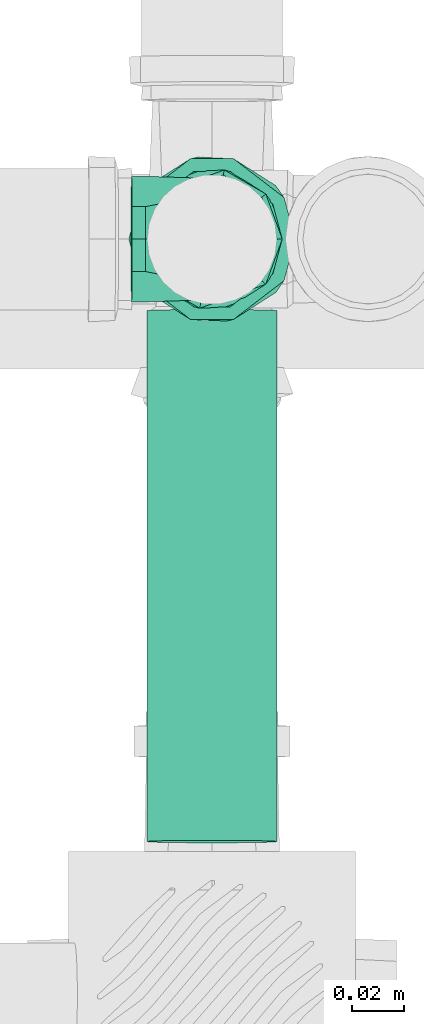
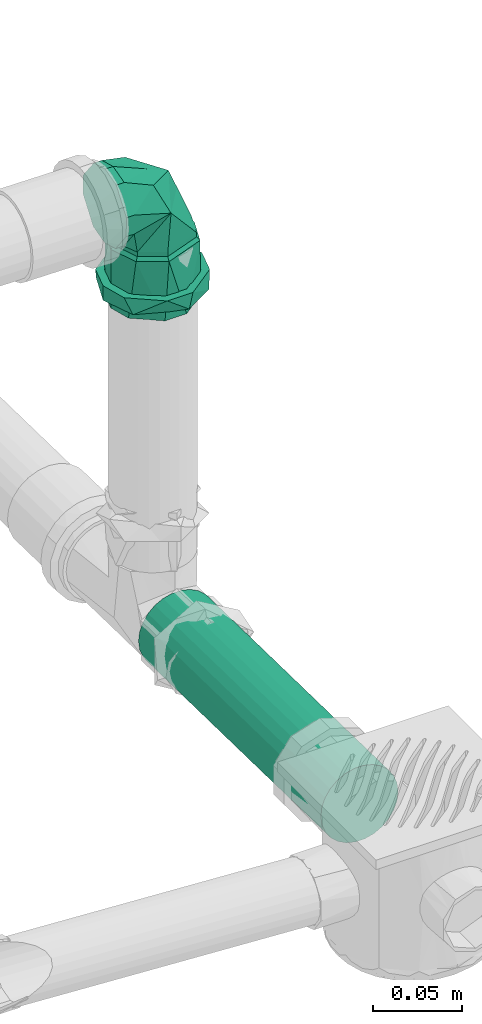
# One storey, part 117 of 589: 1 flow fitting, 1 flow segment.
"""IFC2X3 building model written with IfcOpenShell, lengths in millimetres."""

import ifcopenshell
import ifcopenshell.guid

model = None  # the IFC model being written
_history = None  # IfcOwnerHistory: only IFC2X3 demands one
_inside = {}  # id of a spatial element -> (the spatial element, [elements in it])
_under = {}  # id of a project, library or spatial element -> (it, [spatial elements below it])
_declared = {}  # id of a project -> (the project, [libraries it declares])
_typed = {}  # id of a type object -> (the type object, [elements of that type])
_made_of = {}  # id of a material, layer set ... -> (it, [elements and type objects made of it])


def new_model(schema):
    """Start an empty IFC model of exactly this schema.

    Asked for "IFC4X3", IfcOpenShell would pick the latest addendum, in which some entities
    have other attributes; the version numbers below select the first issue.
    IFC2X3 requires an IfcOwnerHistory on every rooted entity: one is made here for all.
    """
    global model, _history
    if schema == "IFC4X3":
        model = ifcopenshell.file(schema_version=(4, 3, 0, 0))
    else:
        model = ifcopenshell.file(schema=schema)
    _inside.clear()
    _under.clear()
    _declared.clear()
    _typed.clear()
    _made_of.clear()
    _history = None
    if model.schema == "IFC2X3":
        org = make("IfcOrganization", Name="unknown")
        user = make(
            "IfcPersonAndOrganization",
            ThePerson=make("IfcPerson", FamilyName="unknown"),
            TheOrganization=org,
        )
        app = make(
            "IfcApplication",
            ApplicationDeveloper=org,
            Version="unknown",
            ApplicationFullName="unknown",
            ApplicationIdentifier="unknown",
        )
        _history = make(
            "IfcOwnerHistory",
            OwningUser=user,
            OwningApplication=app,
            ChangeAction="ADDED",
            CreationDate=0,
        )
    return model


def make(cls, **values):
    """One entity of the class cls with the attributes given. An attribute that is None is left unset."""
    return model.create_entity(
        cls, **{name: value for name, value in values.items() if value is not None}
    )


def entity(cls, *values):
    """Any entity or typed value of the class cls, its attributes in the order of the schema. None: left unset."""
    e = model.create_entity(cls)
    for i, value in enumerate(values):
        if value is not None:
            e[i] = value
    return e


def rooted(cls, **values):
    """An entity with a GlobalId (a new one), such as an element, a storey or a relation."""
    return make(cls, GlobalId=ifcopenshell.guid.new(), OwnerHistory=_history, **values)


def si_unit(unit_type, name, prefix=None):
    """IfcSIUnit, for example si_unit("LENGTHUNIT", "METRE", prefix="MILLI")."""
    return make("IfcSIUnit", UnitType=unit_type, Prefix=prefix, Name=name)


def converted_unit(unit_type, name, factor, base, dimensions=None, offset=None):
    """IfcConversionBasedUnit, such as the inch: factor (a typed value) times the base unit."""
    return make(
        "IfcConversionBasedUnit"
        if offset is None
        else "IfcConversionBasedUnitWithOffset",
        ConversionOffset=offset,
        Dimensions=None
        if dimensions is None
        else entity("IfcDimensionalExponents", *dimensions),
        UnitType=unit_type,
        Name=name,
        ConversionFactor=make(
            "IfcMeasureWithUnit", ValueComponent=factor, UnitComponent=base
        ),
    )


def derived_unit(unit_type, elements):
    """IfcDerivedUnit: a product of units, each with its exponent."""
    return make(
        "IfcDerivedUnit",
        Elements=[
            make("IfcDerivedUnitElement", Unit=unit, Exponent=power)
            for unit, power in elements
        ],
        UnitType=unit_type,
    )


def assignment(units):
    """IfcUnitAssignment: the units of a project."""
    return None if units is None else make("IfcUnitAssignment", Units=units)


def point(xyz):
    """IfcCartesianPoint."""
    return None if xyz is None else make("IfcCartesianPoint", Coordinates=xyz)


def direction(xyz):
    """IfcDirection."""
    return None if xyz is None else make("IfcDirection", DirectionRatios=xyz)


def frame(location, z_axis=None, x_axis=None):
    """IfcAxis2Placement3D, a coordinate frame: its origin and axes. An axis left out is left unset."""
    return make(
        "IfcAxis2Placement3D",
        Location=point(location),
        Axis=direction(z_axis),
        RefDirection=direction(x_axis),
    )


def frame_2d(location, x_axis=None):
    """IfcAxis2Placement2D, a coordinate frame in the plane: its origin and x axis."""
    return make(
        "IfcAxis2Placement2D", Location=point(location), RefDirection=direction(x_axis)
    )


def origin():
    """The frame at (0, 0, 0) with its axes left unset."""
    return frame((0.0, 0.0, 0.0))


def place(relative_to, where):
    """IfcLocalPlacement: puts the frame where relative to a parent placement (None: the world)."""
    return make(
        "IfcLocalPlacement", PlacementRelTo=relative_to, RelativePlacement=where
    )


def context(
    kind, dimensions, precision=None, world=None, true_north=None, identifier=None
):
    """IfcGeometricRepresentationContext, for example the 3D "Model" context."""
    return make(
        "IfcGeometricRepresentationContext",
        ContextIdentifier=identifier,
        ContextType=kind,
        CoordinateSpaceDimension=dimensions,
        Precision=precision,
        WorldCoordinateSystem=world,
        TrueNorth=true_north,
    )


def subcontext(parent, identifier, kind, view, scale=None):
    """IfcGeometricRepresentationSubContext, for example "Body" below "Model"."""
    return make(
        "IfcGeometricRepresentationSubContext",
        ContextIdentifier=identifier,
        ContextType=kind,
        ParentContext=parent,
        TargetScale=scale,
        TargetView=view,
    )


def project(units=None, contexts=None):
    """IfcProject with its units and contexts."""
    return rooted(
        "IfcProject",
        Name="project",
        RepresentationContexts=contexts,
        UnitsInContext=assignment(units),
    )


def spatial(cls, under=None, at=None, **own):
    """A site, building, storey or space (cls), placed at a placement, below another one or the project."""
    s = rooted(cls, ObjectPlacement=at, **own)
    if under is not None:
        _under.setdefault(under.id(), (under, []))[1].append(s)
    return s


def profile(cls, at=None, kind="AREA", **sizes):
    """A parametric profile (cls). Its sizes go by their IFC names, for example OverallWidth=200.0."""
    return make(cls, ProfileType=kind, Position=at, **sizes)


def circle(**sizes):
    """IfcCircleProfileDef."""
    return profile("IfcCircleProfileDef", **sizes)


def extrude(swept, where, along, depth):
    """IfcExtrudedAreaSolid: the profile swept, set in the frame where, extruded along a direction by depth."""
    return make(
        "IfcExtrudedAreaSolid",
        SweptArea=swept,
        Position=where,
        ExtrudedDirection=direction(along),
        Depth=depth,
    )


def faces_of(points, faces, orient=None, outer=None):
    """IfcFace entities. A face is a list of loops; a loop is a list of indices into points, from 0.

    orient and outer hold one flag for each loop. By default every Orientation is true, the
    first loop of a face is its IfcFaceOuterBound and the others are IfcFaceBound.
    """
    made = []
    for i, loops in enumerate(faces):
        bounds = []
        for j, loop in enumerate(loops):
            is_outer = j == 0 if outer is None else outer[i][j]
            bounds.append(
                make(
                    "IfcFaceOuterBound" if is_outer else "IfcFaceBound",
                    Bound=make("IfcPolyLoop", Polygon=[points[k] for k in loop]),
                    Orientation=True if orient is None else orient[i][j],
                )
            )
        made.append(make("IfcFace", Bounds=bounds))
    return made


def faceted_brep(points, faces, orient=None, outer=None, voids=None):
    """IfcFacetedBrep: a solid bounded by flat faces; with voids (closed shells), ...WithVoids."""
    shared = [point(p) for p in points]
    hull = make("IfcClosedShell", CfsFaces=faces_of(shared, faces, orient, outer))
    if voids is None:
        return make("IfcFacetedBrep", Outer=hull)
    return make(
        "IfcFacetedBrepWithVoids",
        Outer=hull,
        Voids=[
            make(cls, CfsFaces=faces_of(shared, fs, o, b)) for cls, fs, o, b in voids
        ],
    )


def shape(context_of_items, identifier, shape_type, items):
    """IfcShapeRepresentation: the items that make up one representation, for example the "Body"."""
    return make(
        "IfcShapeRepresentation",
        ContextOfItems=context_of_items,
        RepresentationIdentifier=identifier,
        RepresentationType=shape_type,
        Items=items,
    )


def source(mapping_origin, context_of_items, identifier, shape_type, items):
    """IfcRepresentationMap: a shape defined once, which mapped items show again and again."""
    return make(
        "IfcRepresentationMap",
        MappingOrigin=mapping_origin,
        MappedRepresentation=shape(context_of_items, identifier, shape_type, items),
    )


def transform(
    local_origin,
    x_axis=None,
    y_axis=None,
    z_axis=None,
    scale=None,
    scale2=None,
    scale3=None,
    uniform=True,
):
    """IfcCartesianTransformationOperator3D, or its non-uniform kind. x_axis, y_axis, z_axis: its Axis1, 2, 3."""
    if uniform:
        return make(
            "IfcCartesianTransformationOperator3D",
            Axis1=direction(x_axis),
            Axis2=direction(y_axis),
            LocalOrigin=point(local_origin),
            Scale=scale,
            Axis3=direction(z_axis),
        )
    return make(
        "IfcCartesianTransformationOperator3DnonUniform",
        Axis1=direction(x_axis),
        Axis2=direction(y_axis),
        LocalOrigin=point(local_origin),
        Scale=scale,
        Axis3=direction(z_axis),
        Scale2=scale2,
        Scale3=scale3,
    )


def mapped(mapping_source, mapping_target):
    """IfcMappedItem: shows the shape of a source again, moved by a transform."""
    return make(
        "IfcMappedItem", MappingSource=mapping_source, MappingTarget=mapping_target
    )


def material(Name=None, Category=None):
    """IfcMaterial."""
    return make("IfcMaterial", Name=Name, Category=Category)


def made_of(thing, what):
    """Note that an element or type object is made of a material, layer set ...; save() writes the relation."""
    if what is not None:
        _made_of.setdefault(what.id(), (what, []))[1].append(thing)
    return thing


def type_object(cls, material=None, **own):
    """A type object (cls), such as IfcWallType, which elements share."""
    return made_of(rooted(cls, **own), material)


def type_shapes(of_type, sources):
    """Give a type object the sources (RepresentationMaps) that its elements show as mapped items."""
    of_type.RepresentationMaps = sources


def element(
    cls,
    number,
    at=None,
    inside=None,
    cuts=None,
    type_object=None,
    material=None,
    context=None,
    identifier="Body",
    shape_type=None,
    held_by="IfcProductDefinitionShape",
    body=None,
    shapes=None,
    **own,
):
    """One element of the class cls, such as IfcWall. Its Tag is "e" and its number.

    at: its placement. inside: the storey or other place that contains it. cuts: it is an
    opening in that element (IfcRelVoidsElement). A single representation is given by context,
    identifier, shape_type and body (its items); several are given by shapes. held_by: the class
    of the entity that holds the representations. save() writes the other relations.
    """
    e = rooted(cls, Tag="e%d" % number, ObjectPlacement=at, **own)
    if body is not None:
        shapes = [shape(context, identifier, shape_type, body)]
    if shapes is not None:
        e.Representation = make(held_by, Representations=shapes)
    if inside is not None:
        _inside.setdefault(inside.id(), (inside, []))[1].append(e)
    if cuts is not None:
        rooted(
            "IfcRelVoidsElement", RelatingBuildingElement=cuts, RelatedOpeningElement=e
        )
    if type_object is not None:
        _typed.setdefault(type_object.id(), (type_object, []))[1].append(e)
    return made_of(e, material)


def aggregate(whole, parts):
    """IfcRelAggregates: a whole, such as a stair, and the parts it consists of."""
    return rooted("IfcRelAggregates", RelatingObject=whole, RelatedObjects=parts)


def save(model, path):
    """Write the relations noted so far, then the file.

    IfcRelAggregates (storeys below a building ...), IfcRelContainedInSpatialStructure (elements
    in a storey), IfcRelDefinesByType, IfcRelAssociatesMaterial and IfcRelDeclares: one each for
    every whole, place, type object, material and project.
    """
    for whole, parts in _under.values():
        aggregate(whole, parts)
    for where, things in _inside.values():
        rooted(
            "IfcRelContainedInSpatialStructure",
            RelatedElements=things,
            RelatingStructure=where,
        )
    for kind, things in _typed.values():
        rooted("IfcRelDefinesByType", RelatedObjects=things, RelatingType=kind)
    for what, things in _made_of.values():
        rooted("IfcRelAssociatesMaterial", RelatedObjects=things, RelatingMaterial=what)
    for by, libraries in _declared.values():
        rooted("IfcRelDeclares", RelatingContext=by, RelatedDefinitions=libraries)
    model.write(path)


model = new_model("IFC2X3")

# Units and contexts
model_context = context("Model", 3, precision=0.01, world=origin(), true_north=direction((6.123031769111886e-17, 1.0)))
body_context = subcontext(model_context, "Body", "Model", "MODEL_VIEW")
ifc_project = project(units=[si_unit("LENGTHUNIT", "METRE", prefix="MILLI"), si_unit("AREAUNIT", "SQUARE_METRE"), si_unit("VOLUMEUNIT", "CUBIC_METRE"), converted_unit("PLANEANGLEUNIT", "DEGREE", entity("IfcRatioMeasure", 0.017453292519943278), si_unit("PLANEANGLEUNIT", "RADIAN"), dimensions=[0, 0, 0, 0, 0, 0, 0]), si_unit("MASSUNIT", "GRAM", prefix="KILO"), derived_unit("MASSDENSITYUNIT", [(si_unit("MASSUNIT", "GRAM", prefix="KILO"), 1), (si_unit("LENGTHUNIT", "METRE"), -3)]), derived_unit("IONCONCENTRATIONUNIT", [(si_unit("MASSUNIT", "GRAM", prefix="KILO"), 1), (si_unit("LENGTHUNIT", "METRE"), -3)]), derived_unit("MOMENTOFINERTIAUNIT", [(si_unit("LENGTHUNIT", "METRE"), 4)]), si_unit("TIMEUNIT", "SECOND"), si_unit("FREQUENCYUNIT", "HERTZ"), si_unit("THERMODYNAMICTEMPERATUREUNIT", "DEGREE_CELSIUS"), derived_unit("THERMALTRANSMITTANCEUNIT", [(si_unit("MASSUNIT", "GRAM", prefix="KILO"), 1), (si_unit("THERMODYNAMICTEMPERATUREUNIT", "KELVIN"), -1), (si_unit("TIMEUNIT", "SECOND"), -3)]), derived_unit("THERMALCONDUCTANCEUNIT", [(si_unit("MASSUNIT", "GRAM", prefix="KILO"), 1), (si_unit("THERMODYNAMICTEMPERATUREUNIT", "KELVIN"), -1), (si_unit("TIMEUNIT", "SECOND"), -3), (si_unit("LENGTHUNIT", "METRE"), 1)]), derived_unit("VOLUMETRICFLOWRATEUNIT", [(si_unit("LENGTHUNIT", "METRE"), 3), (si_unit("TIMEUNIT", "SECOND"), -1)]), derived_unit("MASSFLOWRATEUNIT", [(si_unit("MASSUNIT", "GRAM", prefix="KILO"), 1), (si_unit("TIMEUNIT", "SECOND"), -1)]), derived_unit("ROTATIONALFREQUENCYUNIT", [(si_unit("TIMEUNIT", "SECOND"), -1)]), si_unit("ELECTRICCURRENTUNIT", "AMPERE"), si_unit("ELECTRICVOLTAGEUNIT", "VOLT"), si_unit("POWERUNIT", "WATT"), si_unit("FORCEUNIT", "NEWTON", prefix="KILO"), si_unit("ILLUMINANCEUNIT", "LUX"), si_unit("LUMINOUSFLUXUNIT", "LUMEN"), si_unit("LUMINOUSINTENSITYUNIT", "CANDELA"), derived_unit("USERDEFINED", [(si_unit("MASSUNIT", "GRAM", prefix="KILO"), -1), (si_unit("LENGTHUNIT", "METRE"), -2), (si_unit("TIMEUNIT", "SECOND"), 3), (si_unit("LUMINOUSFLUXUNIT", "LUMEN"), 1)]), derived_unit("USERDEFINED", [(si_unit("MASSUNIT", "GRAM", prefix="KILO"), 1), (si_unit("TIMEUNIT", "SECOND"), -3), (si_unit("LENGTHUNIT", "METRE"), 3), (si_unit("ELECTRICCURRENTUNIT", "AMPERE"), -2)]), derived_unit("SOUNDPOWERUNIT", [(si_unit("MASSUNIT", "GRAM", prefix="KILO"), 1), (si_unit("TIMEUNIT", "SECOND"), -3), (si_unit("LENGTHUNIT", "METRE"), 2)]), derived_unit("SOUNDPRESSUREUNIT", [(si_unit("MASSUNIT", "GRAM", prefix="KILO"), 1), (si_unit("LENGTHUNIT", "METRE"), -1), (si_unit("TIMEUNIT", "SECOND"), -2)]), derived_unit("LINEARVELOCITYUNIT", [(si_unit("LENGTHUNIT", "METRE"), 1), (si_unit("TIMEUNIT", "SECOND"), -1)]), si_unit("PRESSUREUNIT", "PASCAL"), derived_unit("USERDEFINED", [(si_unit("MASSUNIT", "GRAM", prefix="KILO"), 1), (si_unit("LENGTHUNIT", "METRE"), -2), (si_unit("TIMEUNIT", "SECOND"), -2)]), derived_unit("LINEARFORCEUNIT", [(si_unit("MASSUNIT", "GRAM", prefix="KILO"), 1), (si_unit("TIMEUNIT", "SECOND"), -2)]), derived_unit("PLANARFORCEUNIT", [(si_unit("MASSUNIT", "GRAM", prefix="KILO"), 1), (si_unit("LENGTHUNIT", "METRE"), -1), (si_unit("TIMEUNIT", "SECOND"), -2)]), derived_unit("SPECIFICHEATCAPACITYUNIT", [(si_unit("THERMODYNAMICTEMPERATUREUNIT", "KELVIN"), -1), (si_unit("LENGTHUNIT", "METRE"), 2), (si_unit("TIMEUNIT", "SECOND"), -2)]), derived_unit("HEATINGVALUEUNIT", [(si_unit("LENGTHUNIT", "METRE"), 2), (si_unit("TIMEUNIT", "SECOND"), -2)]), derived_unit("VAPORPERMEABILITYUNIT", [(si_unit("LENGTHUNIT", "METRE"), -1), (si_unit("TIMEUNIT", "SECOND"), 1)]), derived_unit("DYNAMICVISCOSITYUNIT", [(si_unit("MASSUNIT", "GRAM", prefix="KILO"), 1), (si_unit("TIMEUNIT", "SECOND"), -1), (si_unit("LENGTHUNIT", "METRE"), -1)]), derived_unit("THERMALEXPANSIONCOEFFICIENTUNIT", [(si_unit("THERMODYNAMICTEMPERATUREUNIT", "KELVIN"), -1)]), derived_unit("MODULUSOFELASTICITYUNIT", [(si_unit("MASSUNIT", "GRAM", prefix="KILO"), 1), (si_unit("LENGTHUNIT", "METRE"), -1), (si_unit("TIMEUNIT", "SECOND"), -2)]), derived_unit("ISOTHERMALMOISTURECAPACITYUNIT", [(si_unit("LENGTHUNIT", "METRE"), 3), (si_unit("MASSUNIT", "GRAM", prefix="KILO"), -1)]), derived_unit("MOISTUREDIFFUSIVITYUNIT", [(si_unit("TIMEUNIT", "SECOND"), -1), (si_unit("LENGTHUNIT", "METRE"), 2)])], contexts=[model_context])

# Site, building, storey
site_placement = place(None, origin())
site = spatial("IfcSite", under=ifc_project, at=site_placement, Name="Default", CompositionType="ELEMENT")
building_placement = place(site_placement, origin())
building = spatial("IfcBuilding", under=site, at=building_placement, CompositionType="ELEMENT")
storey_placement = place(building_placement, frame((0.0, 0.0, 100.0)))
storey = spatial("IfcBuildingStorey", under=building, at=storey_placement, Name="TÉRREO", CompositionType="ELEMENT", Elevation=100.0)

# Flow segment
pipe_segment_type = type_object("IfcPipeSegmentType", Name="Tipos de tubos:PVC Esgoto Série Normal", PredefinedType="NOTDEFINED")
flow_segment_placement = place(storey_placement, origin())
element("IfcFlowSegment", 1, at=flow_segment_placement, inside=storey, type_object=pipe_segment_type, Name="Tipos de tubos:PVC Esgoto Série Normal", ObjectType="Tipos de tubos:PVC Esgoto Série Normal", context=body_context, shape_type="SweptSolid", body=[
    extrude(circle(Radius=25.0, at=frame_2d((0.0, -1.6916415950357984e-14), x_axis=(1.0, 0.0))), frame((4920.934778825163, -740.8765311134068, -198.63529235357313), z_axis=(0.0, 0.999800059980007, -0.019996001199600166), x_axis=(1.0, 0.0, 0.0)), (0.0, 0.0, 1.0), 204.19124922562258),
])

# Flow fitting
ifc_material = material(Name="PVC Série Normal")
pipe_fitting_type = type_object("IfcPipeFittingType", Name="PVC Esgoto_Joelho 45_90_Rodrigo MEP:a. Série Normal", PredefinedType="NOTDEFINED", material=ifc_material)
shared_shape = source(origin(), body_context, "Body", "Brep", [
    faceted_brep([(-6.212752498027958, 25.804714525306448, 24.14814565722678), (-21.392152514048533, 25.95650852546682, 12.500000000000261), (-24.741349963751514, 25.990000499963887, 0.0), (-21.392152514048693, 25.956508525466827, -12.499999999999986), (-6.21275249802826, 25.804714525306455, -24.1481456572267), (6.727552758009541, 25.675311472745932, -24.14814565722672), (21.906952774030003, 25.52351747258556, -12.500000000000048), (25.256150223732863, 25.490025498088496, 0.0), (21.906952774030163, 25.52351747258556, 12.499999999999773), (6.7275527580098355, 25.675311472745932, 24.148145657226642), (25.308147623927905, 30.689765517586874, 0.0), (21.958950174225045, 30.72325749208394, -12.500000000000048), (6.779550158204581, 30.87505149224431, -24.14814565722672), (-6.160755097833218, 31.004454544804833, -24.1481456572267), (-21.34015511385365, 31.156248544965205, -12.499999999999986), (-24.689352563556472, 31.18974051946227, 0.0), (-21.340155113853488, 31.1562485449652, 12.500000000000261), (-6.160755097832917, 31.00445454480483, 24.14814565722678), (6.779550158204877, 30.87505149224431, 24.148145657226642), (21.958950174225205, 30.72325749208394, 12.499999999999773)], [[[0, 1, 2, 3, 4, 5, 6, 7, 8, 9]], [[10, 11, 12, 13, 14, 15, 16, 17, 18, 19]], [[7, 10, 19, 8]], [[8, 19, 18, 9]], [[18, 17, 0, 9]], [[0, 17, 16, 1]], [[1, 16, 15, 2]], [[2, 15, 14, 3]], [[3, 14, 13, 4]], [[13, 12, 5, 4]], [[5, 12, 11, 6]], [[6, 11, 10, 7]]]),
    faceted_brep([(-70.94129996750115, -6.988114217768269, -26.07999730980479), (-70.94129996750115, -6.47047612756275, -24.14814565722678), (-70.94129996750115, 6.4704761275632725, -24.148145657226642), (-70.94129996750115, -23.382685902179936, -13.499999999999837), (-70.94129996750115, 6.988114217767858, -26.0799973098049), (-70.94129996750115, -21.650635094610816, -12.500000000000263), (-70.94129996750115, -25.0, 0.0), (-70.94129996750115, -27.0, 0.0), (-70.94129996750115, -21.650635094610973, 12.499999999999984), (-70.94129996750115, -23.382685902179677, 13.500000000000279), (-70.94129996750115, -6.470476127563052, 24.1481456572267), (-70.94129996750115, -6.98811421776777, 26.079997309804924), (-70.94129996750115, 6.470476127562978, 24.14814565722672), (-70.94129996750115, 6.988114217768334, 26.07999730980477), (-70.94129996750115, 21.650635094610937, 12.500000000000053), (-70.94129996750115, 23.38268590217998, 13.499999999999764), (-70.94129996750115, 27.0, 0.0), (-70.94129996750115, 25.0, 0.0), (-70.94129996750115, 23.382685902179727, -13.500000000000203), (-70.94129996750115, 21.6506350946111, -12.499999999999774), (-30.94129996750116, 21.650635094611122, -12.499999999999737), (-30.94129996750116, 25.0, 0.0), (-30.94129996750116, 6.4704761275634, -24.148145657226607), (-30.94129996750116, -6.470476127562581, -24.148145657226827), (-30.94129996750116, -21.650635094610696, -12.500000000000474), (-30.94129996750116, -25.0, 0.0), (-30.94129996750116, -21.65063509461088, 12.500000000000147), (-30.94129996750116, -6.470476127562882, 24.14814565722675), (-30.94129996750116, 6.470476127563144, 24.148145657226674), (-30.94129996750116, 21.650635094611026, 12.499999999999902), (-30.94129996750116, 27.0, 0.0), (-30.941299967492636, 20.682232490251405, 17.356418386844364), (-30.94129996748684, 4.685536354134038, 26.59033187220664), (-30.94129996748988, -20.686585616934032, 17.35122979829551), (-30.94129996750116, -27.0, 0.0), (-30.941299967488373, -8.000524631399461, 21.970780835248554), (-30.94129996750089, -20.686585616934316, -17.35122979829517), (-30.9412999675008, -4.6922062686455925, -26.589155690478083), (-30.94129996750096, 20.682232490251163, -17.356418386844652), (-30.94129996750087, 7.995013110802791, -21.97278703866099), (-28.74129996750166, -4.338459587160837, -24.62067765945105), (-28.741299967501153, 25.0, 0.0), (-28.741299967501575, 19.154245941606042, -16.065953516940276), (-28.741299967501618, 7.407893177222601, -20.34331558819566), (-28.741299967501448, -19.15021526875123, -16.070757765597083), (-28.741299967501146, -25.0, 0.0), (-28.741299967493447, -19.150215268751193, 16.07075776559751), (-28.741299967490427, -7.402789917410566, 20.345173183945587), (-28.74129996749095, 19.15424594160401, 16.065953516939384), (-28.741299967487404, 4.344635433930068, 24.619588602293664), (-25.741299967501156, 25.0, 0.0), (-25.741299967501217, 19.151286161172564, 16.069481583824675), (-25.741299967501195, 4.341396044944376, 24.62016003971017), (-25.741299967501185, -7.404832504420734, 20.344954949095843), (-25.741299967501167, -19.15106105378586, 16.069749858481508), (-25.741299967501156, -25.0, 0.0), (-25.741299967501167, -19.15106105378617, -16.069749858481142), (-25.741299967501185, -4.341051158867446, -24.62022085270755), (-25.741299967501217, 19.15128616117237, -16.069481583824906), (-25.7412999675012, 7.405117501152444, -20.344851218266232), (-6.212752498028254, 25.80471452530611, -24.1481456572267), (-21.39215251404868, 25.95650852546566, -12.499999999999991), (-24.74134996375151, 25.990000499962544, 0.0), (-21.3921525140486, 25.956508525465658, 12.500000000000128), (-6.2127524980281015, 25.80471452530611, 24.14814565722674), (6.7275527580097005, 25.67531147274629, 24.148145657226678), (21.906952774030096, 25.52351747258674, 12.499999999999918), (25.256150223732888, 25.490025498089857, 0.0), (21.90695277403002, 25.523517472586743, -12.500000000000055), (6.727552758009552, 25.67531147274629, -24.14814565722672), (-0.83580225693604, 1.5246716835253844, 23.354962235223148), (-3.2027279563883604, -15.730161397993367, 0.0), (10.140389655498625, -10.242300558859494, 0.0), (16.135012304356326, 8.632944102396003, 15.848254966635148), (-25.03773742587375, 25.289366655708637, 0.0), (15.761400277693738, 3.0452732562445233, 0.0), (16.135011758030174, 8.632944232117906, -15.848255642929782), (-0.8751695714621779, 1.433288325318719, -23.341145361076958)], [[[0, 1, 2]], [[1, 0, 3]], [[2, 4, 0]], [[3, 5, 1]], [[3, 6, 5]], [[6, 3, 7]], [[8, 6, 7]], [[8, 7, 9]], [[9, 10, 8]], [[9, 11, 10]], [[10, 11, 12]], [[13, 12, 11]], [[13, 14, 12]], [[14, 13, 15]], [[16, 14, 15]], [[17, 14, 16]], [[18, 17, 16]], [[18, 19, 17]], [[19, 18, 4]], [[4, 2, 19]], [[20, 21, 17, 19]], [[22, 20, 19, 2]], [[2, 1, 23, 22]], [[24, 23, 1, 5]], [[25, 24, 5, 6]], [[26, 25, 6, 8]], [[27, 26, 8, 10]], [[10, 12, 28, 27]], [[29, 28, 12, 14]], [[21, 29, 14, 17]], [[16, 15, 30]], [[15, 31, 30]], [[31, 15, 13]], [[31, 13, 32]], [[33, 11, 9]], [[34, 9, 7]], [[11, 33, 35, 32]], [[33, 9, 34]], [[11, 32, 13]], [[7, 3, 34]], [[3, 36, 34]], [[36, 3, 0]], [[36, 0, 37]], [[38, 4, 18]], [[30, 18, 16]], [[4, 38, 39, 37]], [[38, 18, 30]], [[4, 37, 0]], [[28, 29, 21, 20, 22, 23, 24, 25, 26, 27]], [[39, 40, 37]], [[41, 42, 30]], [[30, 42, 38]], [[38, 43, 39]], [[44, 45, 36]], [[38, 42, 43]], [[36, 37, 44]], [[34, 36, 45]], [[40, 39, 43]], [[44, 37, 40]], [[45, 46, 33]], [[33, 34, 45]], [[46, 35, 33]], [[46, 47, 35]], [[47, 32, 35]], [[48, 41, 30]], [[48, 31, 49]], [[31, 48, 30]], [[32, 47, 49]], [[49, 31, 32]], [[41, 48, 50]], [[48, 51, 50]], [[51, 48, 49]], [[51, 49, 52]], [[52, 47, 53]], [[46, 54, 53]], [[46, 45, 54]], [[49, 47, 52]], [[54, 45, 55]], [[47, 46, 53]], [[45, 44, 56]], [[45, 56, 55]], [[56, 44, 57]], [[58, 59, 43]], [[44, 40, 57]], [[40, 59, 57]], [[58, 43, 42]], [[42, 50, 58]], [[50, 42, 41]], [[59, 40, 43]], [[60, 61, 62, 63, 64, 65, 66, 67, 68, 69]], [[52, 70, 51]], [[54, 71, 70]], [[70, 52, 53, 54]], [[72, 73, 70]], [[50, 63, 74]], [[51, 63, 50]], [[54, 55, 71]], [[72, 70, 71]], [[75, 67, 66]], [[65, 70, 73]], [[73, 75, 66]], [[74, 63, 62]], [[73, 66, 65]], [[63, 51, 64]], [[70, 64, 51]], [[73, 72, 75]], [[65, 64, 70]], [[72, 76, 75]], [[71, 55, 56]], [[77, 58, 60]], [[77, 57, 59, 58]], [[77, 71, 56]], [[56, 57, 77]], [[77, 69, 76]], [[58, 50, 61]], [[74, 62, 61]], [[71, 77, 72]], [[61, 60, 58]], [[68, 75, 76]], [[68, 67, 75]], [[72, 77, 76]], [[76, 69, 68]], [[60, 69, 77]], [[61, 50, 74]]]),
    faceted_brep([(-53.94129996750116, 6.9881142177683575, -26.07999730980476), (-53.94129996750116, -6.988114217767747, -26.079997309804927), (-53.94129996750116, -8.282209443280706, -30.909626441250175), (-53.94129996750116, 8.28220944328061, -30.9096264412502), (-53.94129996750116, 23.38268590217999, -13.499999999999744), (-53.94129996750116, -27.712812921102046, -16.0), (-53.94129996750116, -23.38268590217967, -13.500000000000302), (-53.94129996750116, -27.0, 0.0), (-53.94129996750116, -32.0, 0.0), (-53.94129996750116, -23.382685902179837, 13.500000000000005), (-53.94129996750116, -27.712812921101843, 16.0), (-53.94129996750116, -6.988114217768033, 26.07999730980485), (-53.94129996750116, -8.28220944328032, 30.909626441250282), (-53.94129996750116, 6.988114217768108, 26.07999730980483), (-53.94129996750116, 8.282209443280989, 30.909626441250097), (-53.94129996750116, 23.382685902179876, 13.499999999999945), (-53.94129996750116, 27.712812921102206, 16.0), (-53.94129996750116, 32.0, 0.0), (-53.94129996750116, 27.0, 0.0), (-53.94129996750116, 27.712812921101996, -16.0), (-63.94129996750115, 27.0, 0.0), (-65.24129996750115, 27.0, 0.0), (-63.94129996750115, 25.191342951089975, -6.750000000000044), (-63.94129996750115, 23.38268590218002, -13.499999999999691), (-63.94129996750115, 19.284042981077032, -16.644999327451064), (-63.94129996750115, 15.185400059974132, -19.789998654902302), (-63.94129996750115, 11.086757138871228, -22.934997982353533), (-63.94129996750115, 6.988114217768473, -26.07999730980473), (-63.94129996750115, 0.0, -26.079997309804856), (-63.94129996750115, -6.988114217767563, -26.079997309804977), (-63.94129996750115, -11.086757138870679, -22.934997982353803), (-63.94129996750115, -15.185400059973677, -19.789998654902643), (-63.94129996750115, -19.284042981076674, -16.644999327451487), (-63.94129996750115, -23.382685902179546, -13.50000000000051), (-63.94129996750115, -25.191342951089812, -6.750000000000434), (-65.24129996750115, -27.0, 0.0), (-63.94129996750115, -27.0, 0.0), (-63.94129996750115, -25.19134295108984, 6.750000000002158), (-63.94129996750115, -23.382685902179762, 13.500000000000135), (-63.94129996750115, -19.284042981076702, 16.64499932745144), (-63.94129996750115, -15.185400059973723, 19.7899986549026), (-63.94129996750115, -11.086757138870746, 22.934997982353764), (-63.94129996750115, -6.988114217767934, 26.079997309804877), (-63.94129996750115, 0.0, 26.079997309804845), (-63.94129996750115, 6.988114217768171, 26.079997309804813), (-63.94129996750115, 11.086757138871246, 22.93499798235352), (-63.94129996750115, 15.185400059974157, 19.789998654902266), (-63.94129996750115, 19.284042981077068, 16.644999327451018), (-63.94129996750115, 23.382685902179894, 13.499999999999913), (-63.94129996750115, 25.19134295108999, 6.74999999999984), (-63.94129996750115, 32.0, 0.0), (-63.94129996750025, 24.512275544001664, 20.570569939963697), (-63.94129996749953, -5.561133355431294, 31.51307341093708), (-63.94129996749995, -24.51743480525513, 20.56442050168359), (-63.94129996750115, -32.0, 0.0), (-63.9412999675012, -24.51743480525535, -20.564420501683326), (-63.941299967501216, 5.553228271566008, -31.514467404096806), (-63.94129996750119, 24.512275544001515, -20.570569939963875), (-65.2412999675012, -23.84329280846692, -8.675614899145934), (-65.24129996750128, -20.686585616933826, -17.351229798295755), (-65.24129996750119, 23.841116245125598, -8.678209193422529), (-65.24129996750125, 20.6822324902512, -17.356418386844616), (-65.24129996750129, -12.689395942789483, -21.970192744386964), (-65.24129996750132, -4.692206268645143, -26.589155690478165), (-65.24129996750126, 14.338622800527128, -19.664602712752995), (-65.24129996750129, 1.6514034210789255, -24.280971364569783), (-65.24129996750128, 7.995013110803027, -21.97278703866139), (-65.24129996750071, 23.84111624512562, 8.678209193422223), (-65.24129996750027, 20.68223249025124, 17.35641838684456), (-65.24129996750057, -23.843292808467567, 8.675614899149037), (-65.24129996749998, -20.68658561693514, 17.351229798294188), (-65.24129996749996, 12.683884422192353, 21.973375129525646), (-65.24129996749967, 4.685536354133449, 26.590331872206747), (-65.2412999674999, -14.343555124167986, 19.66100531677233), (-65.24129996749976, -1.6574941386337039, 24.280556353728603), (-65.24129996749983, -8.000524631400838, 21.97078083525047)], [[[0, 1, 2]], [[2, 3, 0]], [[4, 0, 3]], [[5, 2, 1]], [[1, 6, 5]], [[6, 7, 5]], [[8, 5, 7]], [[8, 7, 9]], [[10, 8, 9]], [[9, 11, 10]], [[11, 12, 10]], [[13, 12, 11]], [[12, 13, 14]], [[13, 15, 14]], [[16, 14, 15]], [[16, 15, 17]], [[17, 15, 18]], [[18, 4, 19]], [[17, 18, 19]], [[3, 19, 4]], [[4, 18, 20, 21, 22, 23]], [[0, 4, 23, 24, 25, 26, 27]], [[0, 27, 28, 29, 1]], [[6, 1, 29, 30, 31, 32, 33]], [[7, 6, 33, 34, 35, 36]], [[9, 7, 36, 35, 37, 38]], [[11, 9, 38, 39, 40, 41, 42]], [[11, 42, 43, 44, 13]], [[15, 13, 44, 45, 46, 47, 48]], [[18, 15, 48, 49, 21, 20]], [[50, 51, 16]], [[50, 16, 17]], [[16, 51, 14]], [[51, 52, 14]], [[12, 52, 53]], [[10, 53, 54]], [[53, 10, 12]], [[10, 54, 8]], [[52, 12, 14]], [[54, 55, 5]], [[54, 5, 8]], [[5, 55, 2]], [[55, 56, 2]], [[3, 56, 57]], [[19, 57, 50]], [[57, 19, 3]], [[19, 50, 17]], [[56, 3, 2]], [[58, 33, 59]], [[23, 60, 61]], [[32, 31, 59, 33]], [[30, 29, 62, 31]], [[24, 23, 61, 25]], [[29, 28, 63]], [[26, 25, 64]], [[65, 63, 28]], [[31, 62, 59]], [[63, 62, 29]], [[60, 22, 21]], [[34, 58, 35]], [[66, 26, 64]], [[28, 27, 65]], [[27, 66, 65]], [[27, 26, 66]], [[64, 25, 61]], [[34, 33, 58]], [[60, 23, 22]], [[67, 48, 68]], [[38, 69, 70]], [[47, 46, 68, 48]], [[45, 44, 71, 46]], [[39, 38, 70, 40]], [[44, 43, 72]], [[41, 40, 73]], [[74, 72, 43]], [[46, 71, 68]], [[72, 71, 44]], [[69, 37, 35]], [[49, 67, 21]], [[75, 41, 73]], [[43, 42, 74]], [[42, 75, 74]], [[42, 41, 75]], [[73, 40, 70]], [[49, 48, 67]], [[69, 38, 37]], [[54, 35, 58, 59, 55]], [[55, 59, 62, 63]], [[55, 63, 56]], [[57, 61, 60, 21, 50]], [[57, 56, 61]], [[56, 63, 65, 66, 64, 61]], [[50, 21, 67, 68, 51]], [[51, 68, 71, 72]], [[51, 72, 52]], [[53, 70, 69, 35, 54]], [[53, 52, 70]], [[52, 72, 74, 75, 73, 70]]]),
])
type_shapes(pipe_fitting_type, [shared_shape])
flow_fitting_placement = place(storey_placement, frame((4920.934778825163, -509.16823324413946, 80.0), z_axis=(0.0, -1.0, 0.0), x_axis=(0.0, 0.0, 1.0)))
element("IfcFlowFitting", 2, at=flow_fitting_placement, inside=storey, type_object=pipe_fitting_type, material=ifc_material, Name="PVC Esgoto_Joelho 45_90_Rodrigo MEP:a. Série Normal", ObjectType="PVC Esgoto_Joelho 45_90_Rodrigo MEP:a. Série Normal", context=body_context, shape_type="MappedRepresentation", body=[
    mapped(shared_shape, transform((0.0, 0.0, 0.0), scale=1.0)),
])

save(model, "model.ifc")
